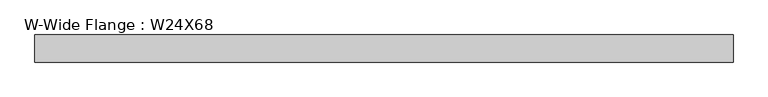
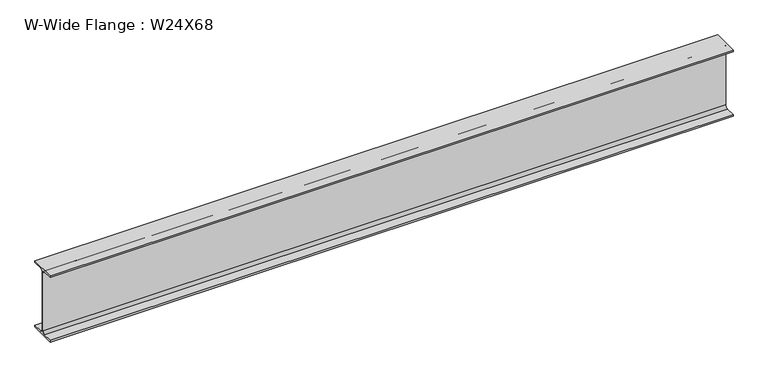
"""IFC4 building model written with IfcOpenShell, lengths in millimetres: beam geometry, W-Wide Flange : W24X68."""

import ifcopenshell
import ifcopenshell.guid

model = None  # the IFC model being written
_history = None  # IfcOwnerHistory: only IFC2X3 demands one
_inside = {}  # id of a spatial element -> (the spatial element, [elements in it])
_under = {}  # id of a project, library or spatial element -> (it, [spatial elements below it])
_declared = {}  # id of a project -> (the project, [libraries it declares])
_typed = {}  # id of a type object -> (the type object, [elements of that type])
_made_of = {}  # id of a material, layer set ... -> (it, [elements and type objects made of it])


def new_model(schema):
    """Start an empty IFC model of exactly this schema.

    Asked for "IFC4X3", IfcOpenShell would pick the latest addendum, in which some entities
    have other attributes; the version numbers below select the first issue.
    IFC2X3 requires an IfcOwnerHistory on every rooted entity: one is made here for all.
    """
    global model, _history
    if schema == "IFC4X3":
        model = ifcopenshell.file(schema_version=(4, 3, 0, 0))
    else:
        model = ifcopenshell.file(schema=schema)
    _inside.clear()
    _under.clear()
    _declared.clear()
    _typed.clear()
    _made_of.clear()
    _history = None
    if model.schema == "IFC2X3":
        org = make("IfcOrganization", Name="unknown")
        user = make(
            "IfcPersonAndOrganization",
            ThePerson=make("IfcPerson", FamilyName="unknown"),
            TheOrganization=org,
        )
        app = make(
            "IfcApplication",
            ApplicationDeveloper=org,
            Version="unknown",
            ApplicationFullName="unknown",
            ApplicationIdentifier="unknown",
        )
        _history = make(
            "IfcOwnerHistory",
            OwningUser=user,
            OwningApplication=app,
            ChangeAction="ADDED",
            CreationDate=0,
        )
    return model


def make(cls, **values):
    """One entity of the class cls with the attributes given. An attribute that is None is left unset."""
    return model.create_entity(
        cls, **{name: value for name, value in values.items() if value is not None}
    )


def rooted(cls, **values):
    """An entity with a GlobalId (a new one), such as an element, a storey or a relation."""
    return make(cls, GlobalId=ifcopenshell.guid.new(), OwnerHistory=_history, **values)


def si_unit(unit_type, name, prefix=None):
    """IfcSIUnit, for example si_unit("LENGTHUNIT", "METRE", prefix="MILLI")."""
    return make("IfcSIUnit", UnitType=unit_type, Prefix=prefix, Name=name)


def assignment(units):
    """IfcUnitAssignment: the units of a project."""
    return None if units is None else make("IfcUnitAssignment", Units=units)


def point(xyz):
    """IfcCartesianPoint."""
    return None if xyz is None else make("IfcCartesianPoint", Coordinates=xyz)


def direction(xyz):
    """IfcDirection."""
    return None if xyz is None else make("IfcDirection", DirectionRatios=xyz)


def frame(location, z_axis=None, x_axis=None):
    """IfcAxis2Placement3D, a coordinate frame: its origin and axes. An axis left out is left unset."""
    return make(
        "IfcAxis2Placement3D",
        Location=point(location),
        Axis=direction(z_axis),
        RefDirection=direction(x_axis),
    )


def frame_2d(location, x_axis=None):
    """IfcAxis2Placement2D, a coordinate frame in the plane: its origin and x axis."""
    return make(
        "IfcAxis2Placement2D", Location=point(location), RefDirection=direction(x_axis)
    )


def origin():
    """The frame at (0, 0, 0) with its axes left unset."""
    return frame((0.0, 0.0, 0.0))


def place(relative_to, where):
    """IfcLocalPlacement: puts the frame where relative to a parent placement (None: the world)."""
    return make(
        "IfcLocalPlacement", PlacementRelTo=relative_to, RelativePlacement=where
    )


def context(
    kind, dimensions, precision=None, world=None, true_north=None, identifier=None
):
    """IfcGeometricRepresentationContext, for example the 3D "Model" context."""
    return make(
        "IfcGeometricRepresentationContext",
        ContextIdentifier=identifier,
        ContextType=kind,
        CoordinateSpaceDimension=dimensions,
        Precision=precision,
        WorldCoordinateSystem=world,
        TrueNorth=true_north,
    )


def project(units=None, contexts=None):
    """IfcProject with its units and contexts."""
    return rooted(
        "IfcProject",
        Name="project",
        RepresentationContexts=contexts,
        UnitsInContext=assignment(units),
    )


def spatial(cls, under=None, at=None, **own):
    """A site, building, storey or space (cls), placed at a placement, below another one or the project."""
    s = rooted(cls, ObjectPlacement=at, **own)
    if under is not None:
        _under.setdefault(under.id(), (under, []))[1].append(s)
    return s


def polyline(points):
    """IfcPolyline through the points."""
    return make("IfcPolyline", Points=[point(p) for p in points])


def circle_curve(where, radius):
    """IfcCircle in the frame where."""
    return make("IfcCircle", Position=where, Radius=radius)


def trimmed(basis, trim1, trim2, sense, master):
    """IfcTrimmedCurve: the piece of a basis curve between two trims."""
    return make(
        "IfcTrimmedCurve",
        BasisCurve=basis,
        Trim1=trim1,
        Trim2=trim2,
        SenseAgreement=sense,
        MasterRepresentation=master,
    )


def segment(curve, same_sense, transition):
    """IfcCompositeCurveSegment."""
    return make(
        "IfcCompositeCurveSegment",
        Transition=transition,
        SameSense=same_sense,
        ParentCurve=curve,
    )


def composite_curve(segments, self_intersect=None):
    """IfcCompositeCurve: segments joined end to end."""
    return make("IfcCompositeCurve", Segments=segments, SelfIntersect=self_intersect)


def outline(outer, holes=None, kind="AREA"):
    """IfcArbitraryClosedProfileDef: a profile drawn as a closed curve; with holes, ...WithVoids."""
    if holes is None:
        return make("IfcArbitraryClosedProfileDef", ProfileType=kind, OuterCurve=outer)
    return make(
        "IfcArbitraryProfileDefWithVoids",
        ProfileType=kind,
        OuterCurve=outer,
        InnerCurves=holes,
    )


def extrude(swept, where, along, depth):
    """IfcExtrudedAreaSolid: the profile swept, set in the frame where, extruded along a direction by depth."""
    return make(
        "IfcExtrudedAreaSolid",
        SweptArea=swept,
        Position=where,
        ExtrudedDirection=direction(along),
        Depth=depth,
    )


def shape(context_of_items, identifier, shape_type, items):
    """IfcShapeRepresentation: the items that make up one representation, for example the "Body"."""
    return make(
        "IfcShapeRepresentation",
        ContextOfItems=context_of_items,
        RepresentationIdentifier=identifier,
        RepresentationType=shape_type,
        Items=items,
    )


def source(mapping_origin, context_of_items, identifier, shape_type, items):
    """IfcRepresentationMap: a shape defined once, which mapped items show again and again."""
    return make(
        "IfcRepresentationMap",
        MappingOrigin=mapping_origin,
        MappedRepresentation=shape(context_of_items, identifier, shape_type, items),
    )


def transform(
    local_origin,
    x_axis=None,
    y_axis=None,
    z_axis=None,
    scale=None,
    scale2=None,
    scale3=None,
    uniform=True,
):
    """IfcCartesianTransformationOperator3D, or its non-uniform kind. x_axis, y_axis, z_axis: its Axis1, 2, 3."""
    if uniform:
        return make(
            "IfcCartesianTransformationOperator3D",
            Axis1=direction(x_axis),
            Axis2=direction(y_axis),
            LocalOrigin=point(local_origin),
            Scale=scale,
            Axis3=direction(z_axis),
        )
    return make(
        "IfcCartesianTransformationOperator3DnonUniform",
        Axis1=direction(x_axis),
        Axis2=direction(y_axis),
        LocalOrigin=point(local_origin),
        Scale=scale,
        Axis3=direction(z_axis),
        Scale2=scale2,
        Scale3=scale3,
    )


def mapped(mapping_source, mapping_target):
    """IfcMappedItem: shows the shape of a source again, moved by a transform."""
    return make(
        "IfcMappedItem", MappingSource=mapping_source, MappingTarget=mapping_target
    )


def made_of(thing, what):
    """Note that an element or type object is made of a material, layer set ...; save() writes the relation."""
    if what is not None:
        _made_of.setdefault(what.id(), (what, []))[1].append(thing)
    return thing


def element(
    cls,
    number,
    at=None,
    inside=None,
    cuts=None,
    type_object=None,
    material=None,
    context=None,
    identifier="Body",
    shape_type=None,
    held_by="IfcProductDefinitionShape",
    body=None,
    shapes=None,
    **own,
):
    """One element of the class cls, such as IfcWall. Its Tag is "e" and its number.

    at: its placement. inside: the storey or other place that contains it. cuts: it is an
    opening in that element (IfcRelVoidsElement). A single representation is given by context,
    identifier, shape_type and body (its items); several are given by shapes. held_by: the class
    of the entity that holds the representations. save() writes the other relations.
    """
    e = rooted(cls, Tag="e%d" % number, ObjectPlacement=at, **own)
    if body is not None:
        shapes = [shape(context, identifier, shape_type, body)]
    if shapes is not None:
        e.Representation = make(held_by, Representations=shapes)
    if inside is not None:
        _inside.setdefault(inside.id(), (inside, []))[1].append(e)
    if cuts is not None:
        rooted(
            "IfcRelVoidsElement", RelatingBuildingElement=cuts, RelatedOpeningElement=e
        )
    if type_object is not None:
        _typed.setdefault(type_object.id(), (type_object, []))[1].append(e)
    return made_of(e, material)


def aggregate(whole, parts):
    """IfcRelAggregates: a whole, such as a stair, and the parts it consists of."""
    return rooted("IfcRelAggregates", RelatingObject=whole, RelatedObjects=parts)


def save(model, path):
    """Write the relations noted so far, then the file.

    IfcRelAggregates (storeys below a building ...), IfcRelContainedInSpatialStructure (elements
    in a storey), IfcRelDefinesByType, IfcRelAssociatesMaterial and IfcRelDeclares: one each for
    every whole, place, type object, material and project.
    """
    for whole, parts in _under.values():
        aggregate(whole, parts)
    for where, things in _inside.values():
        rooted(
            "IfcRelContainedInSpatialStructure",
            RelatedElements=things,
            RelatingStructure=where,
        )
    for kind, things in _typed.values():
        rooted("IfcRelDefinesByType", RelatedObjects=things, RelatingType=kind)
    for what, things in _made_of.values():
        rooted("IfcRelAssociatesMaterial", RelatedObjects=things, RelatingMaterial=what)
    for by, libraries in _declared.values():
        rooted("IfcRelDeclares", RelatingContext=by, RelatedDefinitions=libraries)
    model.write(path)


def w_wide_flange_w24x68_339b7627(model_context):
    return source(origin(), model_context, "Body", "SweptSolid", [
        extrude(outline(composite_curve([segment(polyline([(113.919, -286.131), (113.919, -300.99), (-113.919, -300.99), (-113.919, -286.131), (-28.5115, -286.131)]), True, "CONTINUOUS"), segment(trimmed(circle_curve(frame_2d((-28.5115, -262.89)), 23.241), [point((-28.5115, -286.131))], [point((-5.2705, -262.89))], True, "CARTESIAN"), True, "CONTINUOUS"), segment(polyline([(-5.2705, -262.89), (-5.2705, 262.89)]), True, "CONTINUOUS"), segment(trimmed(circle_curve(frame_2d((-28.5115, 262.89)), 23.241), [point((-5.2705, 262.89))], [point((-28.5115, 286.131))], True, "CARTESIAN"), True, "CONTINUOUS"), segment(polyline([(-28.5115, 286.131), (-113.919, 286.131), (-113.919, 300.99), (113.919, 300.99), (113.919, 286.131), (28.5115, 286.131)]), True, "CONTINUOUS"), segment(trimmed(circle_curve(frame_2d((28.5115, 262.89)), 23.241), [point((28.5115, 286.131))], [point((5.2705, 262.89))], True, "CARTESIAN"), True, "CONTINUOUS"), segment(polyline([(5.2705, 262.89), (5.2705, -262.89)]), True, "CONTINUOUS"), segment(trimmed(circle_curve(frame_2d((28.5115, -262.89)), 23.241), [point((5.2705, -262.89))], [point((28.5115, -286.131))], True, "CARTESIAN"), True, "CONTINUOUS"), segment(polyline([(28.5115, -286.131), (113.919, -286.131)]), True, "CONTINUOUS")], self_intersect=False)), frame((-2916.0599212, 0.0, 0.0), z_axis=(1.0, 0.0, 0.0), x_axis=(0.0, 1.0, 0.0)), (0.0, 0.0, 1.0), 5867.4),
    ])


if __name__ == "__main__":
    model = new_model("IFC4")
    model_context = context("Model", 3, world=origin())
    ifc_project = project(units=[si_unit("LENGTHUNIT", "METRE", prefix="MILLI")], contexts=[model_context])
    site = spatial("IfcSite", under=ifc_project)
    building = spatial("IfcBuilding", under=site)
    placement = place(None, origin())
    w_wide_flange_w24x68_shape = w_wide_flange_w24x68_339b7627(model_context)
    element("IfcBeam", 1, ObjectType="W-Wide Flange : W24X68", at=placement, inside=building, context=model_context, shape_type="MappedRepresentation", body=[
        mapped(w_wide_flange_w24x68_shape, transform((0.0, 0.0, 0.0), x_axis=(1.0, 0.0, 0.0), y_axis=(0.0, 1.0, 0.0), z_axis=(0.0, 0.0, 1.0))),
    ])
    save(model, "model.ifc")
